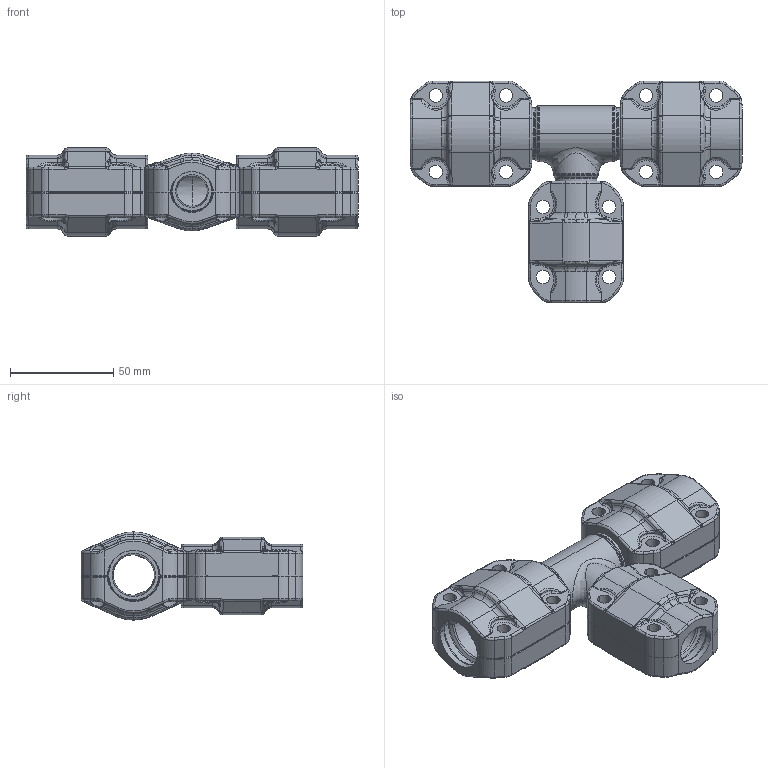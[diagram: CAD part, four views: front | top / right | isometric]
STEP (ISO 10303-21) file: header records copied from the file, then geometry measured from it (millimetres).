
FILE_DESCRIPTION(/* description */ (''),/* implementation_level */ '2;1');
FILE_NAME(/* name */ '2107_stp.stp',/* time_stamp */ '2025-06-23T11:34:52+08:00',/* author */ (''),/* organization */ (''),/* preprocessor_version */ 'ST-DEVELOPER v11',/* originating_system */ 'SIEMENS PLM Software NX 7.5',/* authorisation */ '');
FILE_SCHEMA (('CONFIG_CONTROL_DESIGN'));
Products named in the file (1): AdmiCFA3ahfd
Bounding box: 161 x 107.5 x 42.8 mm (x, y, z)
Volume: 154527.3 mm3; surface area: 80542.9 mm2
Topology: 7 solids, 7 shells, 1977 faces, 5037 edges, 3080 vertices
Faces by surface type: cylinder 604, bspline 565, torus 385, plane 273, cone 108, extrusion 36, sphere 6
Entity records: 89196 total; most frequent: CARTESIAN_POINT 46158, ORIENTED_EDGE 10062, DIRECTION 7805, EDGE_CURVE 5031, AXIS2_PLACEMENT_3D 3221, VERTEX_POINT 3080, EDGE_LOOP 2041, ADVANCED_FACE 1977
